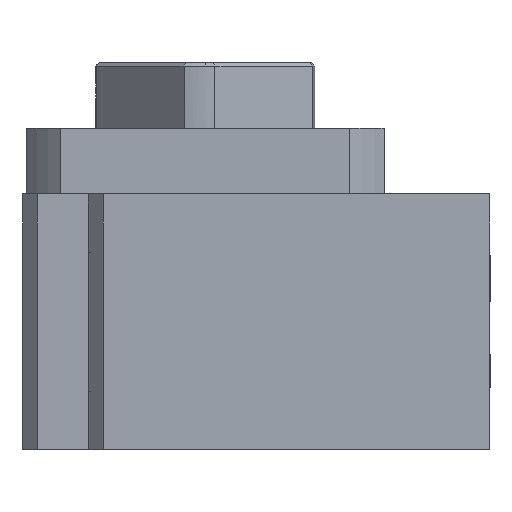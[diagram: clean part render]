
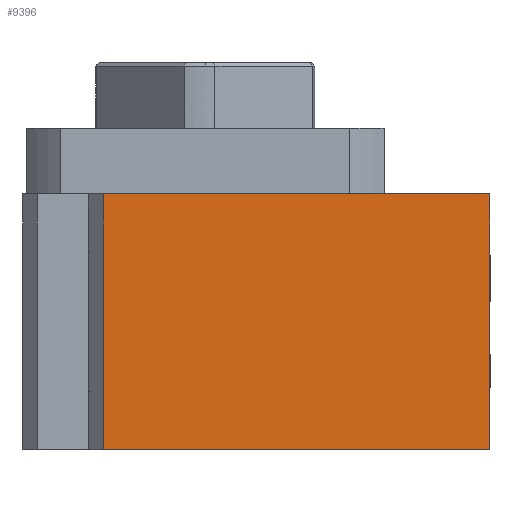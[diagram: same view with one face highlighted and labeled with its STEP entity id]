
A CAD part, left-side view. The second image highlights one B-rep face of the part: STEP entity #9396.
In plain terms, the highlighted planar face has unit normal (1, 0, 0).
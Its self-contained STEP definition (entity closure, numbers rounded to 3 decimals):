
#1232 = CARTESIAN_POINT ( 'NONE',  ( -48.365, -44.157, -5.833 ) ) ;
#2390 = EDGE_CURVE ( 'NONE', #18301, #11367, #6974, .T. ) ;
#2551 = CARTESIAN_POINT ( 'NONE',  ( -48.365, 8.843, -17.5 ) ) ;
#3092 = CARTESIAN_POINT ( 'NONE',  ( -48.365, -44.157, -17.5 ) ) ;
#3377 = B_SPLINE_CURVE_WITH_KNOTS ( 'NONE', 3,
 ( #17243, #8391, #9924, #10216 ),
 .UNSPECIFIED., .F., .F.,
 ( 4, 4 ),
 ( 0., 1. ),
 .UNSPECIFIED. ) ;
#3778 = DIRECTION ( 'NONE',  ( 1., 0., 0. ) ) ;
#4198 = B_SPLINE_CURVE_WITH_KNOTS ( 'NONE', 3,
 ( #15634, #15354, #5424, #2551 ),
 .UNSPECIFIED., .F., .F.,
 ( 4, 4 ),
 ( 0., 1. ),
 .UNSPECIFIED. ) ;
#4421 = CARTESIAN_POINT ( 'NONE',  ( -48.365, 8.843, 17.5 ) ) ;
#4573 = EDGE_LOOP ( 'NONE', ( #7618, #6059, #10308, #12855 ) ) ;
#5020 = PLANE ( 'NONE',  #6725 ) ;
#5329 = EDGE_CURVE ( 'NONE', #11367, #6283, #6210, .T. ) ;
#5424 = CARTESIAN_POINT ( 'NONE',  ( -48.365, -8.823, -17.5 ) ) ;
#6059 = ORIENTED_EDGE ( 'NONE', *, *, #11022, .F. ) ;
#6104 = VERTEX_POINT ( 'NONE', #17120 ) ;
#6210 = B_SPLINE_CURVE_WITH_KNOTS ( 'NONE', 3,
 ( #17493, #17398, #1232, #10074 ),
 .UNSPECIFIED., .F., .F.,
 ( 4, 4 ),
 ( 0., 1. ),
 .UNSPECIFIED. ) ;
#6283 = VERTEX_POINT ( 'NONE', #3092 ) ;
#6725 = AXIS2_PLACEMENT_3D ( 'NONE', #8281, #3778, #10877 ) ;
#6974 = B_SPLINE_CURVE_WITH_KNOTS ( 'NONE', 3,
 ( #4421, #11801, #14652, #16156 ),
 .UNSPECIFIED., .F., .F.,
 ( 4, 4 ),
 ( 0., 1. ),
 .UNSPECIFIED. ) ;
#7618 = ORIENTED_EDGE ( 'NONE', *, *, #10711, .T. ) ;
#8281 = CARTESIAN_POINT ( 'NONE',  ( -48.365, -44.157, 17.5 ) ) ;
#8391 = CARTESIAN_POINT ( 'NONE',  ( -48.365, 8.843, 5.833 ) ) ;
#9396 = ADVANCED_FACE ( 'NONE', ( #18186 ), #5020, .T. ) ;
#9924 = CARTESIAN_POINT ( 'NONE',  ( -48.365, 8.843, -5.833 ) ) ;
#10074 = CARTESIAN_POINT ( 'NONE',  ( -48.365, -44.157, -17.5 ) ) ;
#10216 = CARTESIAN_POINT ( 'NONE',  ( -48.365, 8.843, -17.5 ) ) ;
#10308 = ORIENTED_EDGE ( 'NONE', *, *, #2390, .T. ) ;
#10711 = EDGE_CURVE ( 'NONE', #6283, #6104, #4198, .T. ) ;
#10877 = DIRECTION ( 'NONE',  ( 0., 1., 0. ) ) ;
#11022 = EDGE_CURVE ( 'NONE', #18301, #6104, #3377, .T. ) ;
#11334 = CARTESIAN_POINT ( 'NONE',  ( -48.365, -44.157, 17.5 ) ) ;
#11367 = VERTEX_POINT ( 'NONE', #11334 ) ;
#11472 = CARTESIAN_POINT ( 'NONE',  ( -48.365, 8.843, 17.5 ) ) ;
#11801 = CARTESIAN_POINT ( 'NONE',  ( -48.365, -8.823, 17.5 ) ) ;
#12855 = ORIENTED_EDGE ( 'NONE', *, *, #5329, .T. ) ;
#14652 = CARTESIAN_POINT ( 'NONE',  ( -48.365, -26.49, 17.5 ) ) ;
#15354 = CARTESIAN_POINT ( 'NONE',  ( -48.365, -26.49, -17.5 ) ) ;
#15634 = CARTESIAN_POINT ( 'NONE',  ( -48.365, -44.157, -17.5 ) ) ;
#16156 = CARTESIAN_POINT ( 'NONE',  ( -48.365, -44.157, 17.5 ) ) ;
#17120 = CARTESIAN_POINT ( 'NONE',  ( -48.365, 8.843, -17.5 ) ) ;
#17243 = CARTESIAN_POINT ( 'NONE',  ( -48.365, 8.843, 17.5 ) ) ;
#17398 = CARTESIAN_POINT ( 'NONE',  ( -48.365, -44.157, 5.833 ) ) ;
#17493 = CARTESIAN_POINT ( 'NONE',  ( -48.365, -44.157, 17.5 ) ) ;
#18186 = FACE_OUTER_BOUND ( 'NONE', #4573, .T. ) ;
#18301 = VERTEX_POINT ( 'NONE', #11472 ) ;
